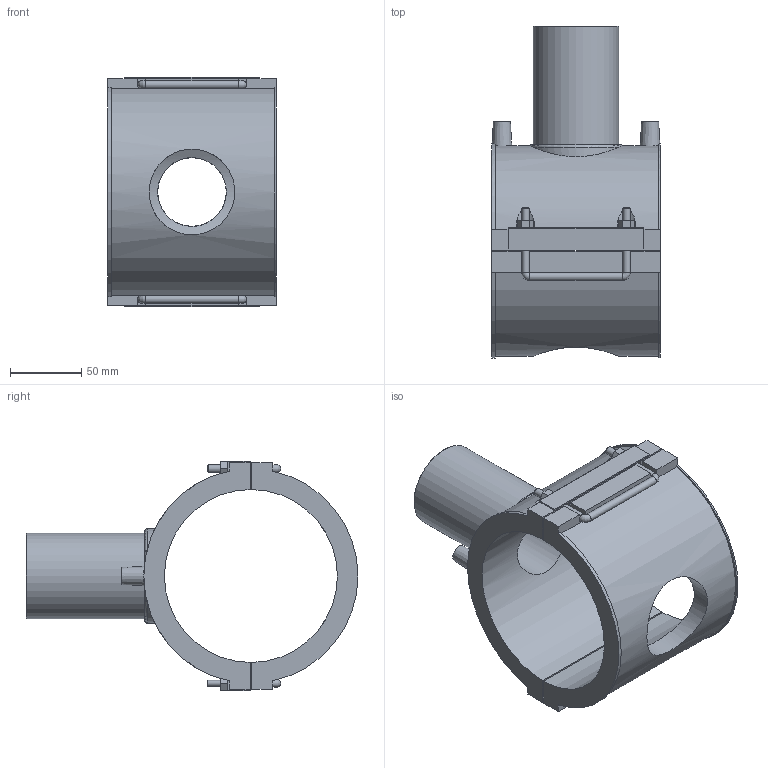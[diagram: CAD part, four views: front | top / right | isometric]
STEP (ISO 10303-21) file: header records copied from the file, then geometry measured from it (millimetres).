
FILE_DESCRIPTION(/* description */ ('PLASSON BRANCH SADDLE 4''''DIPS x 2''''IPS'),/* implementation_level */ '2;1');
FILE_NAME(/* name */ 'C:\Dropbox\KIMPROJECTS-Inventor 2019\99-16-3568-Processing Inch\ASTM ElectroFusion 2021\5958D (1)\5958DB03040020.ipt.stp',/* time_stamp */ '2021-08-30T09:54:06+03:00',/* author */ ('KIM'),/* organization */ (''),/* preprocessor_version */ 'ST-DEVELOPER v17.2',/* originating_system */ 'Autodesk Inventor 2019',/* authorisation */ '');
FILE_SCHEMA (('AUTOMOTIVE_DESIGN { 1 0 10303 214 3 1 1 }'));
Length unit declared in the file: inch
Products named in the file (1): 5958DB03040020
Bounding box: 118.11 x 232.75 x 161 mm (x, y, z)
Volume: 737782.7 mm3; surface area: 165437.1 mm2
Topology: 4 solids, 4 shells, 174 faces, 447 edges, 293 vertices
Faces by surface type: plane 121, cylinder 43, cone 5, torus 5
Full cylindrical faces by diameter (mm): 4 x2, 4.2 x2, 5.4 x10, 10 x2, 48.08 x1, 60.1 x2
Entity records: 5753 total; most frequent: CARTESIAN_POINT 1402, ORIENTED_EDGE 894, DIRECTION 887, EDGE_CURVE 447, LINE 303, VECTOR 303, VERTEX_POINT 293, AXIS2_PLACEMENT_3D 292
